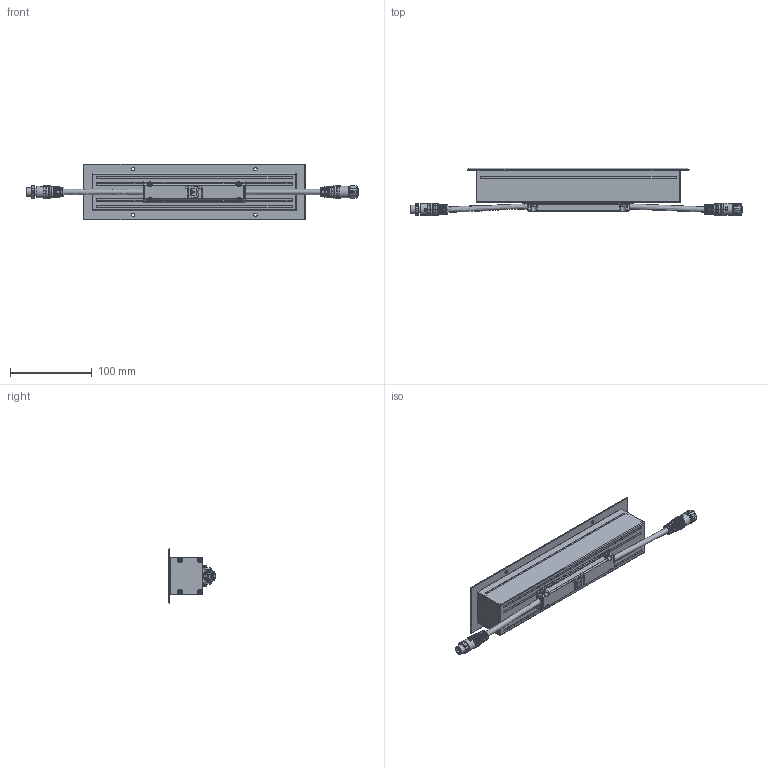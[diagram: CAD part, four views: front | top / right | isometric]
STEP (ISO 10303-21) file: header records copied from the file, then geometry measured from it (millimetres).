
FILE_DESCRIPTION (( 'STEP AP214' ), '1' );
FILE_NAME ('Linear Window - Recessed.STEP', '2025-08-26T12:15:47', ( '' ), ( '' ), 'SwSTEP 2.0', 'SolidWorks 2025', '' );
FILE_SCHEMA (( 'AUTOMOTIVE_DESIGN' ));
Length unit declared in the file: millimetre
Products named in the file (5): Linear Window - Recessed; Linear Window - Body_Recessed; M12 5p Male; Part15^Linear Window; M12 5p Female
Assembly tree (4 placements, depth 2):
  Linear Window - Recessed
    Linear Window - Body_Recessed
    M12 5p Male
    M12 5p Female
    Part15^Linear Window
Bounding box: 407.4 x 58.16 x 68 mm (x, y, z)
Volume: 533822.4 mm3; surface area: 86647.3 mm2
Topology: 5 solids, 17 shells, 1294 faces, 2901 edges, 1677 vertices
Faces by surface type: plane 560, cylinder 323, cone 216, torus 135, bspline 38, sphere 22
Full cylindrical faces by diameter (mm): 2.7 x4, 10.8 x1, 12.3 x1, 14.3 x2
Entity records: 41414 total; most frequent: CARTESIAN_POINT 10328, DIRECTION 6178, ORIENTED_EDGE 5692, EDGE_CURVE 2846, AXIS2_PLACEMENT_3D 2506, VERTEX_POINT 1666, EDGE_LOOP 1410, FACE_OUTER_BOUND 1304
